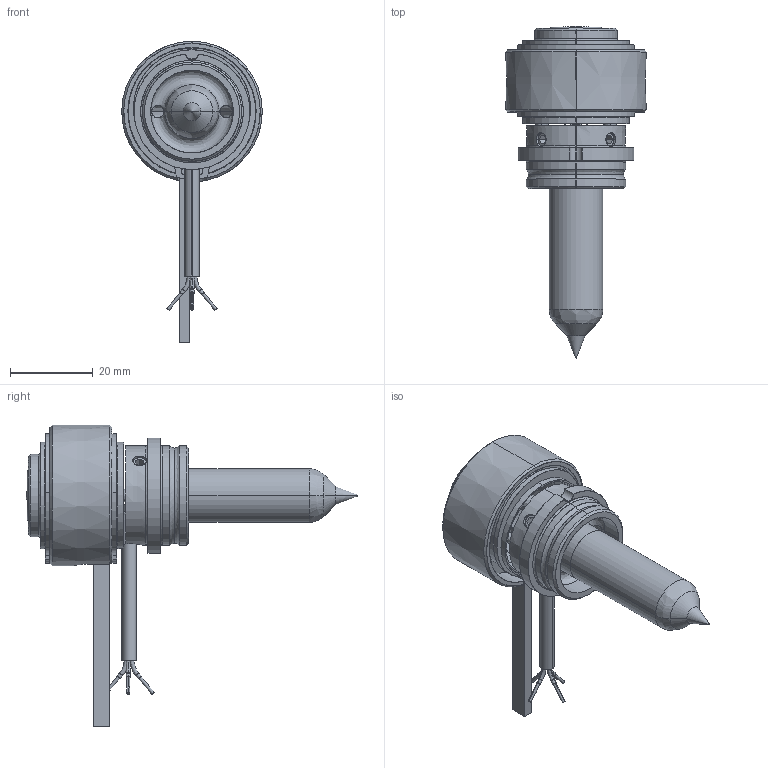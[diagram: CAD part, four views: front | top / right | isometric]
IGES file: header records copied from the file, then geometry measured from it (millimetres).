
Start section: SolidWorks IGES file using analytic representation for surfaces
Global section: file name: C:\Documents and Settings\ws-20\Desktop\TEM\UGGS2520-M-1 [Øf-0.25].IGS; native system: SolidWorks 2012; preprocessor: SolidWorks 2012; author: ws-20; date: 120516.092844; units: millimetre
Bounding box: 34 x 80.3 x 72.9 mm (x, y, z)
Surface area: 15165.1 mm2 (no closed solid volume)
Topology: 0 solids, 0 shells, 209 faces, 2905 edges, 2899 vertices
Faces by surface type: revolution 125, bspline 84
